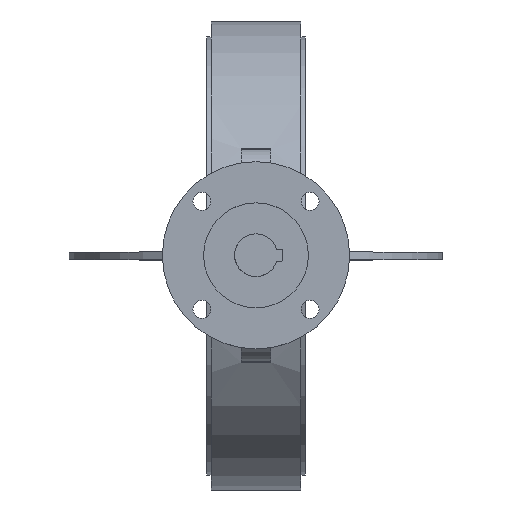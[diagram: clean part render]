
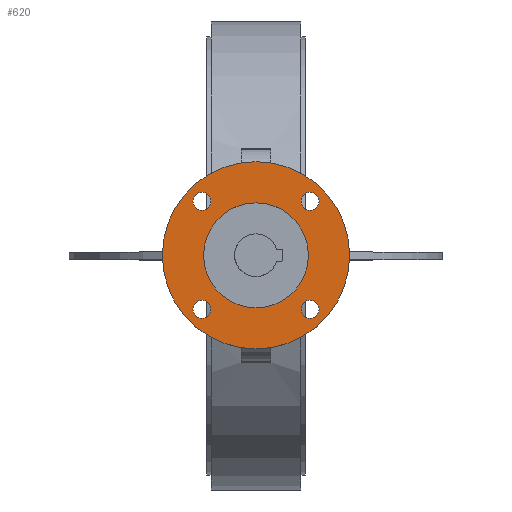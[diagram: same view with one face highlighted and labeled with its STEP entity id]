
A CAD part, top view. The second image highlights one B-rep face of the part: STEP entity #620.
In plain terms, the highlighted planar face has unit normal (0, 0, 1).
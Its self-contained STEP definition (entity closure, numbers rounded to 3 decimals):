
#620=ADVANCED_FACE('',(#1381,#1383,#1385,#1387,#1389,#1391),#1393,.T.);
#1381=FACE_BOUND('',#1382,.T.);
#1382=EDGE_LOOP('',(#1876));
#1383=FACE_BOUND('',#1384,.T.);
#1384=EDGE_LOOP('',(#1877));
#1385=FACE_BOUND('',#1386,.T.);
#1386=EDGE_LOOP('',(#1878));
#1387=FACE_BOUND('',#1388,.T.);
#1388=EDGE_LOOP('',(#1879));
#1389=FACE_BOUND('',#1390,.T.);
#1390=EDGE_LOOP('',(#1880));
#1391=FACE_BOUND('',#1392,.T.);
#1392=EDGE_LOOP('',(#1881));
#1393=PLANE('',#1394);
#1394=AXIS2_PLACEMENT_3D('',#1395,#1396,#1397);
#1395=CARTESIAN_POINT('',(0.,0.,267.));
#1396=DIRECTION('',(0.,0.,1.));
#1397=DIRECTION('',(0.,1.,0.));
#1876=ORIENTED_EDGE('',*,*,#2122,.F.);
#1877=ORIENTED_EDGE('',*,*,#2123,.T.);
#1878=ORIENTED_EDGE('',*,*,#2124,.T.);
#1879=ORIENTED_EDGE('',*,*,#2125,.T.);
#1880=ORIENTED_EDGE('',*,*,#2141,.T.);
#1881=ORIENTED_EDGE('',*,*,#2126,.T.);
#2122=EDGE_CURVE('',#2425,#2425,#2426,.T.);
#2123=EDGE_CURVE('',#2427,#2427,#2428,.F.);
#2124=EDGE_CURVE('',#2429,#2429,#2430,.F.);
#2125=EDGE_CURVE('',#2431,#2431,#2432,.F.);
#2126=EDGE_CURVE('',#2433,#2433,#2434,.F.);
#2141=EDGE_CURVE('',#2463,#2463,#2464,.T.);
#2425=VERTEX_POINT('',#4044);
#2426=CIRCLE('',#4045,62.5);
#2427=VERTEX_POINT('',#4049);
#2428=CIRCLE('',#4050,6.);
#2429=VERTEX_POINT('',#4054);
#2430=CIRCLE('',#4055,6.);
#2431=VERTEX_POINT('',#4059);
#2432=CIRCLE('',#4060,6.);
#2433=VERTEX_POINT('',#4064);
#2434=CIRCLE('',#4065,6.);
#2463=VERTEX_POINT('',#4132);
#2464=CIRCLE('',#4133,35.);
#4044=CARTESIAN_POINT('',(0.,62.5,267.));
#4045=AXIS2_PLACEMENT_3D('',#4046,#4047,#4048);
#4046=CARTESIAN_POINT('',(0.,0.,267.));
#4047=DIRECTION('',(0.,0.,-1.));
#4048=DIRECTION('',(0.,1.,0.));
#4049=CARTESIAN_POINT('',(-30.062,-36.062,267.));
#4050=AXIS2_PLACEMENT_3D('',#4051,#4052,#4053);
#4051=CARTESIAN_POINT('',(-36.062,-36.062,267.));
#4052=DIRECTION('',(0.,0.,1.));
#4053=DIRECTION('',(1.,0.,0.));
#4054=CARTESIAN_POINT('',(-36.062,30.062,267.));
#4055=AXIS2_PLACEMENT_3D('',#4056,#4057,#4058);
#4056=CARTESIAN_POINT('',(-36.062,36.062,267.));
#4057=DIRECTION('',(0.,0.,1.));
#4058=DIRECTION('',(0.,-1.,0.));
#4059=CARTESIAN_POINT('',(30.062,36.062,267.));
#4060=AXIS2_PLACEMENT_3D('',#4061,#4062,#4063);
#4061=CARTESIAN_POINT('',(36.062,36.062,267.));
#4062=DIRECTION('',(0.,0.,1.));
#4063=DIRECTION('',(-1.,0.,0.));
#4064=CARTESIAN_POINT('',(36.062,-30.062,267.));
#4065=AXIS2_PLACEMENT_3D('',#4066,#4067,#4068);
#4066=CARTESIAN_POINT('',(36.062,-36.062,267.));
#4067=DIRECTION('',(0.,0.,1.));
#4068=DIRECTION('',(0.,1.,0.));
#4132=CARTESIAN_POINT('',(0.,35.,267.));
#4133=AXIS2_PLACEMENT_3D('',#4134,#4135,#4136);
#4134=CARTESIAN_POINT('',(0.,0.,267.));
#4135=DIRECTION('',(0.,0.,-1.));
#4136=DIRECTION('',(0.,1.,0.));
